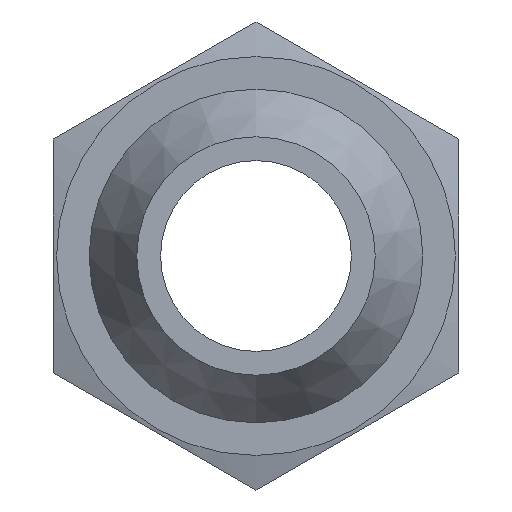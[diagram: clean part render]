
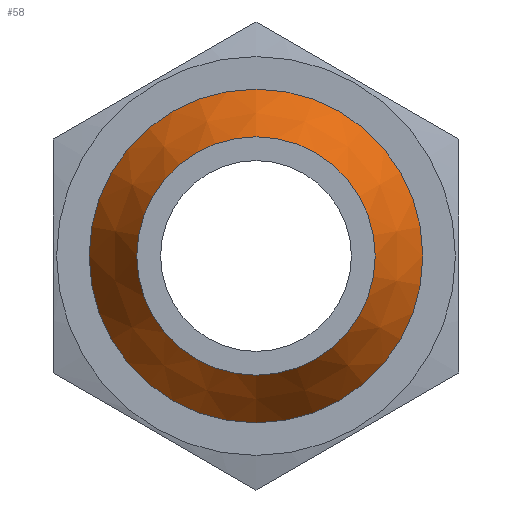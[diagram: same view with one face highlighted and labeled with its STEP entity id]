
A CAD part, left-side view. The second image highlights one B-rep face of the part: STEP entity #58.
In plain terms, the highlighted conical face has half-angle 30 degrees and reference radius 7 mm.
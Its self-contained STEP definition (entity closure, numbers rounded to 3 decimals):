
#58 = ADVANCED_FACE( '', ( #133, #134 ), #135, .T. );
#133 = FACE_BOUND( '', #230, .T. );
#134 = FACE_OUTER_BOUND( '', #231, .T. );
#135 = CONICAL_SURFACE( '', #232, 7., 0.524 );
#230 = EDGE_LOOP( '', ( #331 ) );
#231 = EDGE_LOOP( '', ( #332 ) );
#232 = AXIS2_PLACEMENT_3D( '', #333, #334, #335 );
#331 = ORIENTED_EDGE( '', *, *, #480, .F. );
#332 = ORIENTED_EDGE( '', *, *, #477, .T. );
#333 = CARTESIAN_POINT( '', ( -21.536, 0., 0. ) );
#334 = DIRECTION( '', ( 1., 0., 0. ) );
#335 = DIRECTION( '', ( 0., 0., -1. ) );
#477 = EDGE_CURVE( '', #542, #542, #543, .T. );
#480 = EDGE_CURVE( '', #547, #547, #548, .T. );
#542 = VERTEX_POINT( '', #630 );
#543 = CIRCLE( '', #631, 7. );
#547 = VERTEX_POINT( '', #635 );
#548 = CIRCLE( '', #636, 5. );
#630 = CARTESIAN_POINT( '', ( -21.536, 0., 7. ) );
#631 = AXIS2_PLACEMENT_3D( '', #785, #786, #787 );
#635 = CARTESIAN_POINT( '', ( -25., 0., 5. ) );
#636 = AXIS2_PLACEMENT_3D( '', #791, #792, #793 );
#785 = CARTESIAN_POINT( '', ( -21.536, 0., 0. ) );
#786 = DIRECTION( '', ( -1., 0., 0. ) );
#787 = DIRECTION( '', ( 0., 0., 1. ) );
#791 = CARTESIAN_POINT( '', ( -25., 0., 0. ) );
#792 = DIRECTION( '', ( -1., 0., 0. ) );
#793 = DIRECTION( '', ( 0., 0., 1. ) );
